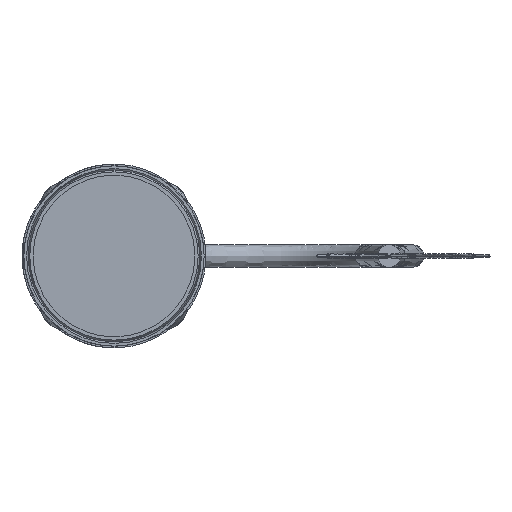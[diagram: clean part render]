
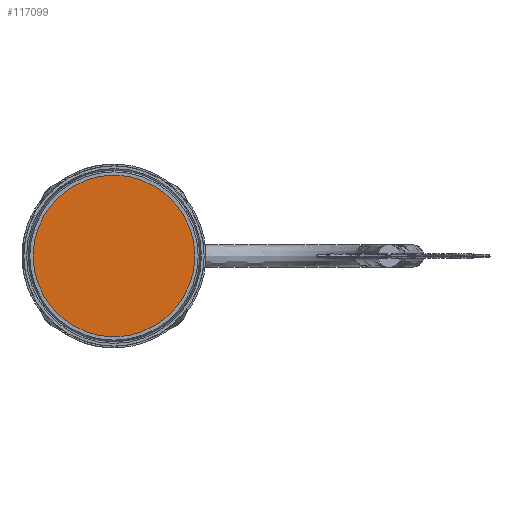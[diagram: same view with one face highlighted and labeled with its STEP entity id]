
A CAD part, left-side view. The second image highlights one B-rep face of the part: STEP entity #117099.
In plain terms, the highlighted planar face has unit normal (-1, 0, 0).
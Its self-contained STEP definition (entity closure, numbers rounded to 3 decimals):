
#90 = CARTESIAN_POINT ( 'NONE',  ( -23.368, 54.837, -33.068 ) ) ;
#537 = EDGE_CURVE ( 'NONE', #80133, #17145, #47610, .T. ) ;
#1121 = DIRECTION ( 'NONE',  ( -1., 0., 0. ) ) ;
#5728 = EDGE_LOOP ( 'NONE', ( #42242, #9598 ) ) ;
#6907 = PLANE ( 'NONE',  #42813 ) ;
#7311 = DIRECTION ( 'NONE',  ( -1., 0., 0. ) ) ;
#8934 = AXIS2_PLACEMENT_3D ( 'NONE', #10395, #82424, #23713 ) ;
#9598 = ORIENTED_EDGE ( 'NONE', *, *, #537, .T. ) ;
#10395 = CARTESIAN_POINT ( 'NONE',  ( -23.368, 26.587, -33.068 ) ) ;
#17145 = VERTEX_POINT ( 'NONE', #86540 ) ;
#23713 = DIRECTION ( 'NONE',  ( 0., -1., 0. ) ) ;
#42242 = ORIENTED_EDGE ( 'NONE', *, *, #99807, .T. ) ;
#42813 = AXIS2_PLACEMENT_3D ( 'NONE', #62428, #7311, #71767 ) ;
#47610 = CIRCLE ( 'NONE', #8934, 28.25 ) ;
#56246 = CARTESIAN_POINT ( 'NONE',  ( -23.368, 26.587, -33.068 ) ) ;
#56792 = AXIS2_PLACEMENT_3D ( 'NONE', #56246, #1121, #65566 ) ;
#62428 = CARTESIAN_POINT ( 'NONE',  ( -23.368, 26.587, -33.068 ) ) ;
#65566 = DIRECTION ( 'NONE',  ( 0., -1., 0. ) ) ;
#71767 = DIRECTION ( 'NONE',  ( 0., -1., 0. ) ) ;
#80133 = VERTEX_POINT ( 'NONE', #90 ) ;
#82424 = DIRECTION ( 'NONE',  ( -1., 0., 0. ) ) ;
#84946 = FACE_OUTER_BOUND ( 'NONE', #5728, .T. ) ;
#86540 = CARTESIAN_POINT ( 'NONE',  ( -23.368, -1.663, -33.068 ) ) ;
#89576 = CIRCLE ( 'NONE', #56792, 28.25 ) ;
#99807 = EDGE_CURVE ( 'NONE', #17145, #80133, #89576, .T. ) ;
#117099 = ADVANCED_FACE ( 'NONE', ( #84946 ), #6907, .T. ) ;
